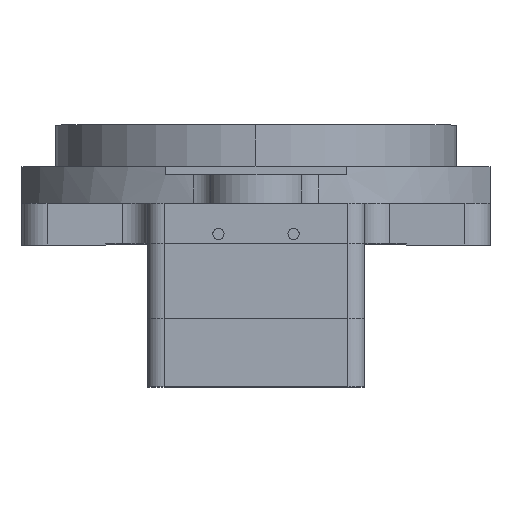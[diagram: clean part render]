
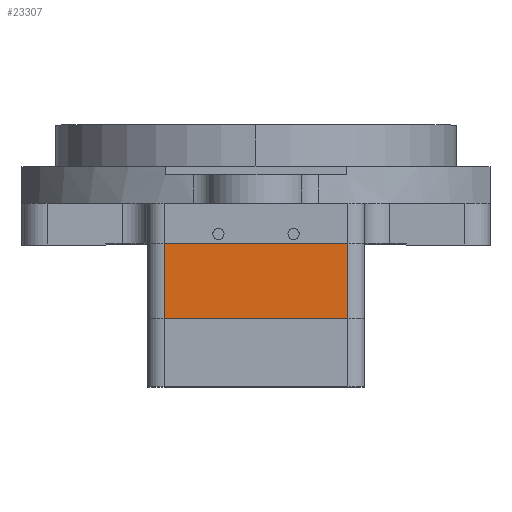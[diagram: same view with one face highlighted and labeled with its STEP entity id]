
A CAD part, top view. The second image highlights one B-rep face of the part: STEP entity #23307.
In plain terms, the highlighted planar face has unit normal (0, 0, 1).
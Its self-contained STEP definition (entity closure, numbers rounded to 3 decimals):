
#23002=DIRECTION('',(0.,1.,0.));
#23003=VECTOR('',#23002,45.);
#23004=CARTESIAN_POINT('',(55.,-45.,65.));
#23005=LINE('',#23004,#23003);
#23042=DIRECTION('',(1.,0.,0.));
#23043=VECTOR('',#23042,110.);
#23044=CARTESIAN_POINT('',(-55.,-45.,65.));
#23045=LINE('',#23044,#23043);
#23088=DIRECTION('',(0.,-1.,0.));
#23089=VECTOR('',#23088,45.);
#23090=CARTESIAN_POINT('',(-55.,0.,65.));
#23091=LINE('',#23090,#23089);
#23092=DIRECTION('',(1.,0.,0.));
#23093=VECTOR('',#23092,110.);
#23094=CARTESIAN_POINT('',(-55.,0.,65.));
#23095=LINE('',#23094,#23093);
#23105=CARTESIAN_POINT('',(55.,0.,65.));
#23107=VERTEX_POINT('',#23105);
#23108=CARTESIAN_POINT('',(-55.,0.,65.));
#23109=VERTEX_POINT('',#23108);
#23128=CARTESIAN_POINT('',(55.,-45.,65.));
#23130=VERTEX_POINT('',#23128);
#23142=CARTESIAN_POINT('',(-55.,-45.,65.));
#23143=VERTEX_POINT('',#23142);
#23296=CARTESIAN_POINT('',(-65.,0.,65.));
#23297=DIRECTION('',(0.,0.,1.));
#23298=DIRECTION('',(1.,0.,0.));
#23299=AXIS2_PLACEMENT_3D('',#23296,#23297,#23298);
#23300=PLANE('',#23299);
#23301=ORIENTED_EDGE('',*,*,#23181,.F.);
#23302=ORIENTED_EDGE('',*,*,#23207,.F.);
#23303=ORIENTED_EDGE('',*,*,#23291,.F.);
#23304=ORIENTED_EDGE('',*,*,#23151,.T.);
#23305=EDGE_LOOP('',(#23301,#23302,#23303,#23304));
#23306=FACE_OUTER_BOUND('',#23305,.F.);
#23307=ADVANCED_FACE('',(#23306),#23300,.T.);
#23151=EDGE_CURVE('',#23109,#23107,#23095,.T.);
#23181=EDGE_CURVE('',#23130,#23107,#23005,.T.);
#23207=EDGE_CURVE('',#23143,#23130,#23045,.T.);
#23291=EDGE_CURVE('',#23109,#23143,#23091,.T.);
